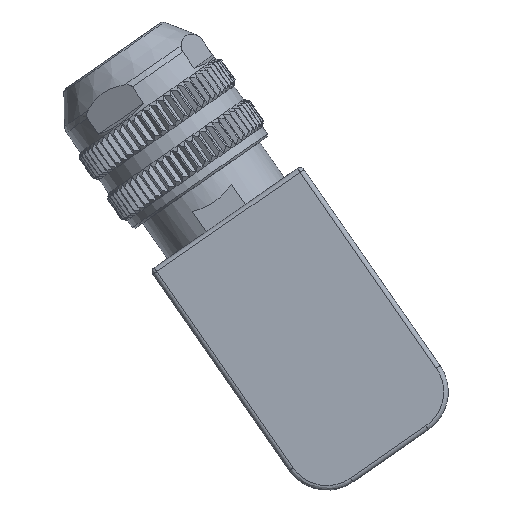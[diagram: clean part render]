
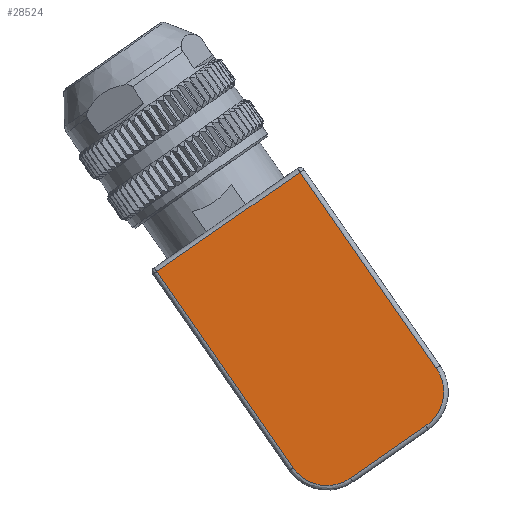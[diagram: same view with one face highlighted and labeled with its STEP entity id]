
A CAD part, left-side view. The second image highlights one B-rep face of the part: STEP entity #28524.
In plain terms, the highlighted planar face has unit normal (-1, 0, 0).
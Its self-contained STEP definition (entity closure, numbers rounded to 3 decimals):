
#2010 = ORIENTED_EDGE ( 'NONE', *, *, #57451, .T. ) ;
#2867 = DIRECTION ( 'NONE',  ( 0., -0.822, 0.57 ) ) ;
#3108 = CARTESIAN_POINT ( 'NONE',  ( -13.3, -11.731, -2.938 ) ) ;
#3615 = CARTESIAN_POINT ( 'NONE',  ( -13.3, 3.469, -11.199 ) ) ;
#3887 = CARTESIAN_POINT ( 'NONE',  ( -13.3, 3.029, -11.48 ) ) ;
#4162 = CARTESIAN_POINT ( 'NONE',  ( -13.3, -0.037, -11.944 ) ) ;
#4199 = CARTESIAN_POINT ( 'NONE',  ( -13.3, -11.381, 0.263 ) ) ;
#4500 = VERTEX_POINT ( 'NONE', #21829 ) ;
#4688 = CARTESIAN_POINT ( 'NONE',  ( -13.3, 2.826, -11.581 ) ) ;
#8538 = CARTESIAN_POINT ( 'NONE',  ( -13.3, -11.083, -4.357 ) ) ;
#8938 = VECTOR ( 'NONE', #18642, 1000. ) ;
#9410 = EDGE_CURVE ( 'NONE', #56332, #37835, #76636, .T. ) ;
#9913 = CARTESIAN_POINT ( 'NONE',  ( -13.3, -1.708, -11.231 ) ) ;
#10107 = CARTESIAN_POINT ( 'NONE',  ( -13.3, 0.889, -12.034 ) ) ;
#10636 = CARTESIAN_POINT ( 'NONE',  ( -13.3, 0.094, -11.969 ) ) ;
#10685 = ORIENTED_EDGE ( 'NONE', *, *, #69694, .T. ) ;
#11112 = ORIENTED_EDGE ( 'NONE', *, *, #41699, .T. ) ;
#11768 = CARTESIAN_POINT ( 'NONE',  ( -13.3, 3.769, 22.094 ) ) ;
#13842 = CARTESIAN_POINT ( 'NONE',  ( -13.3, 3.769, 22.094 ) ) ;
#14767 = CARTESIAN_POINT ( 'NONE',  ( -13.3, -10.961, -4.53 ) ) ;
#17124 = CARTESIAN_POINT ( 'NONE',  ( -13.3, 1.275, -12.019 ) ) ;
#17223 = AXIS2_PLACEMENT_3D ( 'NONE', #63337, #19953, #57611 ) ;
#18642 = DIRECTION ( 'NONE',  ( 0., -0.57, -0.822 ) ) ;
#19953 = DIRECTION ( 'NONE',  ( -1., 0., 0. ) ) ;
#21829 = CARTESIAN_POINT ( 'NONE',  ( -13.3, -9.923, -5.529 ) ) ;
#22159 = ORIENTED_EDGE ( 'NONE', *, *, #9410, .T. ) ;
#22365 = CARTESIAN_POINT ( 'NONE',  ( -13.3, -11.858, -1.863 ) ) ;
#25334 = CARTESIAN_POINT ( 'NONE',  ( -13.3, -11.055, 0.733 ) ) ;
#26994 = CARTESIAN_POINT ( 'NONE',  ( -13.3, -9.923, -5.529 ) ) ;
#27627 = VERTEX_POINT ( 'NONE', #30119 ) ;
#28345 = CARTESIAN_POINT ( 'NONE',  ( -13.3, -11.743, -0.825 ) ) ;
#28524 = ADVANCED_FACE ( 'NONE', ( #38442 ), #70351, .T. ) ;
#28570 = CARTESIAN_POINT ( 'NONE',  ( -13.3, 1.044, -12.03 ) ) ;
#28611 = CARTESIAN_POINT ( 'NONE',  ( -13.3, -11.793, -1.068 ) ) ;
#28885 = CARTESIAN_POINT ( 'NONE',  ( -13.3, -11.405, -3.8 ) ) ;
#30119 = CARTESIAN_POINT ( 'NONE',  ( -13.3, 19.378, 11.261 ) ) ;
#31136 = CARTESIAN_POINT ( 'NONE',  ( -13.3, 19.378, 11.261 ) ) ;
#34542 = CARTESIAN_POINT ( 'NONE',  ( -13.3, 2.261, -11.821 ) ) ;
#34582 = CARTESIAN_POINT ( 'NONE',  ( -13.3, -11.843, -2.249 ) ) ;
#34798 = CARTESIAN_POINT ( 'NONE',  ( -13.3, 0.81, -12.034 ) ) ;
#34930 = VERTEX_POINT ( 'NONE', #80461 ) ;
#35067 = CARTESIAN_POINT ( 'NONE',  ( -13.3, 3.41, -11.24 ) ) ;
#35109 = CARTESIAN_POINT ( 'NONE',  ( -13.3, -11.852, -1.556 ) ) ;
#35339 = CARTESIAN_POINT ( 'NONE',  ( -13.3, 0.355, -12.01 ) ) ;
#35629 = CARTESIAN_POINT ( 'NONE',  ( -13.3, -11.055, 0.733 ) ) ;
#37835 = VERTEX_POINT ( 'NONE', #11768 ) ;
#37865 = VERTEX_POINT ( 'NONE', #67347 ) ;
#38442 = FACE_OUTER_BOUND ( 'NONE', #73449, .T. ) ;
#40279 = CARTESIAN_POINT ( 'NONE',  ( -13.3, -11.768, -0.938 ) ) ;
#41309 = CARTESIAN_POINT ( 'NONE',  ( -13.3, 4.555, -10.099 ) ) ;
#41338 = DIRECTION ( 'NONE',  ( 0., 0.57, 0.822 ) ) ;
#41349 = CARTESIAN_POINT ( 'NONE',  ( -13.3, -11.834, -1.33 ) ) ;
#41699 = EDGE_CURVE ( 'NONE', #34930, #37865, #75334, .T. ) ;
#41821 = CARTESIAN_POINT ( 'NONE',  ( -13.3, 4.119, -10.658 ) ) ;
#45660 = CARTESIAN_POINT ( 'NONE',  ( -13.3, -11.064, -4.385 ) ) ;
#46480 = CARTESIAN_POINT ( 'NONE',  ( -13.3, -11.055, 0.733 ) ) ;
#46987 = CARTESIAN_POINT ( 'NONE',  ( -13.3, -0.092, -11.932 ) ) ;
#47289 = CARTESIAN_POINT ( 'NONE',  ( -13.3, -11.748, -0.845 ) ) ;
#47511 = CARTESIAN_POINT ( 'NONE',  ( -13.3, -1.237, -11.557 ) ) ;
#48036 = CARTESIAN_POINT ( 'NONE',  ( -13.3, 2.689, -11.645 ) ) ;
#50120 = ORIENTED_EDGE ( 'NONE', *, *, #55745, .T. ) ;
#51891 = CARTESIAN_POINT ( 'NONE',  ( -13.3, -11.188, -4.199 ) ) ;
#52700 = CARTESIAN_POINT ( 'NONE',  ( -13.3, -11.469, -3.663 ) ) ;
#53232 = CARTESIAN_POINT ( 'NONE',  ( -13.3, -11.858, -1.784 ) ) ;
#53721 = VECTOR ( 'NONE', #2867, 1000. ) ;
#53729 = CARTESIAN_POINT ( 'NONE',  ( -13.3, -0.149, -11.919 ) ) ;
#53995 = CARTESIAN_POINT ( 'NONE',  ( -13.3, 2.62, -11.675 ) ) ;
#54258 = CARTESIAN_POINT ( 'NONE',  ( -13.3, 4.392, -10.334 ) ) ;
#55650 = LINE ( 'NONE', #9913, #53721 ) ;
#55745 = EDGE_CURVE ( 'NONE', #37865, #4500, #55650, .T. ) ;
#56332 = VERTEX_POINT ( 'NONE', #25334 ) ;
#57373 = LINE ( 'NONE', #31136, #8938 ) ;
#57451 = EDGE_CURVE ( 'NONE', #27627, #34930, #57373, .T. ) ;
#57611 = DIRECTION ( 'NONE',  ( 0., 0., 1. ) ) ;
#57734 = LINE ( 'NONE', #13842, #58673 ) ;
#58409 = CARTESIAN_POINT ( 'NONE',  ( -13.3, -10.482, -5.093 ) ) ;
#58673 = VECTOR ( 'NONE', #69702, 1000. ) ;
#59450 = CARTESIAN_POINT ( 'NONE',  ( -13.3, 1.963, -11.907 ) ) ;
#59759 = CARTESIAN_POINT ( 'NONE',  ( -13.3, -11.756, -0.882 ) ) ;
#59986 = CARTESIAN_POINT ( 'NONE',  ( -13.3, 0.582, -12.028 ) ) ;
#60023 = CARTESIAN_POINT ( 'NONE',  ( -13.3, -11.813, -2.48 ) ) ;
#60151 = VECTOR ( 'NONE', #41338, 1000. ) ;
#60518 = CARTESIAN_POINT ( 'NONE',  ( -13.3, -0.724, -11.785 ) ) ;
#63337 = CARTESIAN_POINT ( 'NONE',  ( -13.3, 5.872, 8.462 ) ) ;
#65718 = CARTESIAN_POINT ( 'NONE',  ( -13.3, -11.645, -3.235 ) ) ;
#65990 = CARTESIAN_POINT ( 'NONE',  ( -13.3, -11.499, -3.595 ) ) ;
#66254 = CARTESIAN_POINT ( 'NONE',  ( -13.3, -11.609, -0.251 ) ) ;
#67073 = EDGE_CURVE ( 'NONE', #37835, #27627, #57734, .T. ) ;
#67347 = CARTESIAN_POINT ( 'NONE',  ( -13.3, -1.708, -11.231 ) ) ;
#69694 = EDGE_CURVE ( 'NONE', #4500, #56332, #77965, .T. ) ;
#69702 = DIRECTION ( 'NONE',  ( 0., 0.822, -0.57 ) ) ;
#70333 = CARTESIAN_POINT ( 'NONE',  ( -13.3, -10.158, -5.366 ) ) ;
#70351 = PLANE ( 'NONE',  #17223 ) ;
#71637 = CARTESIAN_POINT ( 'NONE',  ( -13.3, 3.555, -11.137 ) ) ;
#71901 = CARTESIAN_POINT ( 'NONE',  ( -13.3, 3.383, -11.259 ) ) ;
#72167 = CARTESIAN_POINT ( 'NONE',  ( -13.3, 3.752, -10.986 ) ) ;
#72400 = ORIENTED_EDGE ( 'NONE', *, *, #67073, .T. ) ;
#72427 = CARTESIAN_POINT ( 'NONE',  ( -13.3, 3.225, -11.364 ) ) ;
#73449 = EDGE_LOOP ( 'NONE', ( #11112, #50120, #10685, #22159, #72400, #2010 ) ) ;
#75334 = B_SPLINE_CURVE_WITH_KNOTS ( 'NONE', 3,
 ( #41309, #54258, #41821, #72167, #71637, #3615, #35067, #71901, #72427, #3887, #4688, #48036, #53995, #34542, #59450, #78398, #17124, #28570, #10107, #34798, #59986, #35339, #10636, #4162, #46987, #78141, #53729, #60518, #47511, #78659 ),
 .UNSPECIFIED., .F., .F.,
 ( 4, 1, 1, 1, 2, 2, 1, 2, 2, 2, 1, 2, 2, 1, 1, 1, 2, 2, 4 ),
 ( 0., 0.125, 0.187, 0.219, 0.234, 0.25, 0.312, 0.344, 0.375, 0.5, 0.562, 0.594, 0.625, 0.687, 0.719, 0.734, 0.742, 0.75, 1. ),
 .UNSPECIFIED. ) ;
#76571 = CARTESIAN_POINT ( 'NONE',  ( -13.3, -10.81, -4.726 ) ) ;
#76636 = LINE ( 'NONE', #35629, #60151 ) ;
#76835 = CARTESIAN_POINT ( 'NONE',  ( -13.3, -11.023, -4.443 ) ) ;
#77376 = CARTESIAN_POINT ( 'NONE',  ( -13.3, -11.304, -4.004 ) ) ;
#77965 = B_SPLINE_CURVE_WITH_KNOTS ( 'NONE', 3,
 ( #26994, #70333, #58409, #76571, #14767, #76835, #45660, #8538, #51891, #77376, #28885, #52700, #65990, #65718, #3108, #60023, #34582, #78435, #22365, #53232, #35109, #41349, #28611, #40279, #59759, #47289, #28345, #66254, #4199, #46480 ),
 .UNSPECIFIED., .F., .F.,
 ( 4, 1, 1, 1, 2, 2, 1, 2, 2, 2, 1, 2, 2, 1, 1, 1, 2, 2, 4 ),
 ( 0., 0.125, 0.187, 0.219, 0.234, 0.25, 0.312, 0.344, 0.375, 0.5, 0.563, 0.594, 0.625, 0.688, 0.719, 0.734, 0.742, 0.75, 1. ),
 .UNSPECIFIED. ) ;
#78141 = CARTESIAN_POINT ( 'NONE',  ( -13.3, -0.13, -11.924 ) ) ;
#78398 = CARTESIAN_POINT ( 'NONE',  ( -13.3, 1.505, -11.989 ) ) ;
#78435 = CARTESIAN_POINT ( 'NONE',  ( -13.3, -11.854, -2.018 ) ) ;
#78659 = CARTESIAN_POINT ( 'NONE',  ( -13.3, -1.708, -11.231 ) ) ;
#80461 = CARTESIAN_POINT ( 'NONE',  ( -13.3, 4.555, -10.099 ) ) ;
